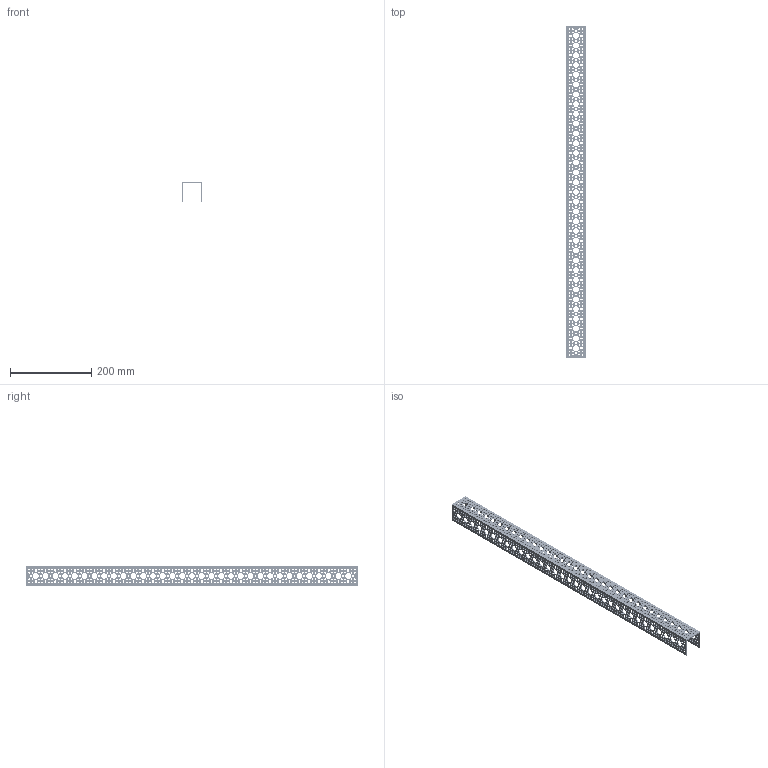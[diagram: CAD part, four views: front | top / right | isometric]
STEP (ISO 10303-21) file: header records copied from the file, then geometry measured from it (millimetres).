
FILE_DESCRIPTION (( 'STEP AP203' ), '1' );
FILE_NAME ('1100-0033-0816 rev1.STEP', '2017-05-12T21:33:01', ( '' ), ( '' ), 'SwSTEP 2.0', 'SolidWorks 2016', '' );
FILE_SCHEMA (( 'CONFIG_CONTROL_DESIGN' ));
Products named in the file (1): 1100-0033-0816 rev1
Bounding box: 48 x 816 x 48 mm (x, y, z)
Volume: 196921.2 mm3; surface area: 214997.2 mm2
Topology: 1 solids, 1 shells, 4363 faces, 13083 edges, 8722 vertices
Faces by surface type: cylinder 2937, plane 1426
Entity records: 154748 total; most frequent: DIRECTION 27685, CARTESIAN_POINT 26169, ORIENTED_EDGE 26166, EDGE_CURVE 13083, AXIS2_PLACEMENT_3D 10238, VERTEX_POINT 8722, VECTOR 7209, LINE 7209
